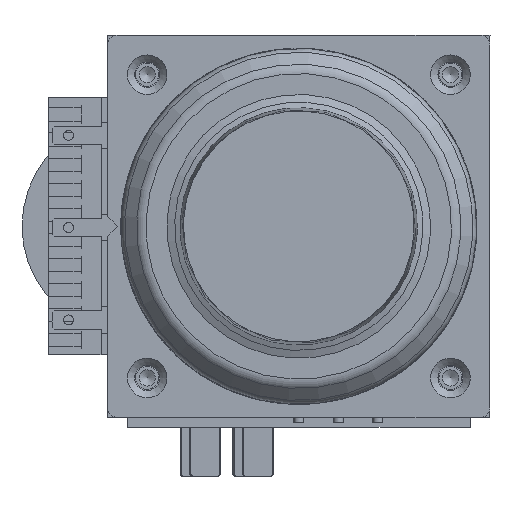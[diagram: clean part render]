
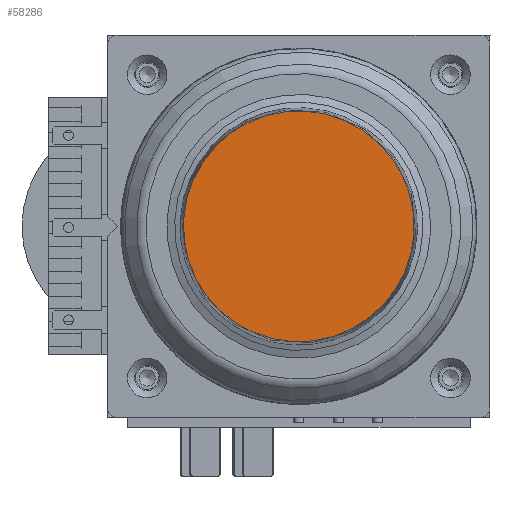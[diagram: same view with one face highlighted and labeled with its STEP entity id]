
A CAD part, front view. The second image highlights one B-rep face of the part: STEP entity #58286.
In plain terms, the highlighted planar face has unit normal (0, -1, 0).
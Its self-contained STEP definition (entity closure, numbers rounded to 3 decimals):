
#14166=FACE_OUTER_BOUND('',#17504,.T.);
#17504=EDGE_LOOP('',(#49486));
#20943=CIRCLE('',#64321,17.5);
#26194=VERTEX_POINT('',#98201);
#34087=EDGE_CURVE('',#26194,#26194,#20943,.T.);
#49486=ORIENTED_EDGE('',*,*,#34087,.T.);
#52439=PLANE('',#64320);
#58286=ADVANCED_FACE('',(#14166),#52439,.T.);
#64320=AXIS2_PLACEMENT_3D('',#98200,#80613,#80614);
#64321=AXIS2_PLACEMENT_3D('',#98202,#80615,#80616);
#80613=DIRECTION('center_axis',(0.,-1.,0.));
#80614=DIRECTION('ref_axis',(-0.058,0.,-0.998));
#80615=DIRECTION('center_axis',(0.,-1.,0.));
#80616=DIRECTION('ref_axis',(0.998,0.,-0.058));
#98200=CARTESIAN_POINT('Origin',(8.735,-94.42,-0.504));
#98201=CARTESIAN_POINT('',(17.471,-94.42,-1.008));
#98202=CARTESIAN_POINT('Origin',(0.,-94.42,
0.));
